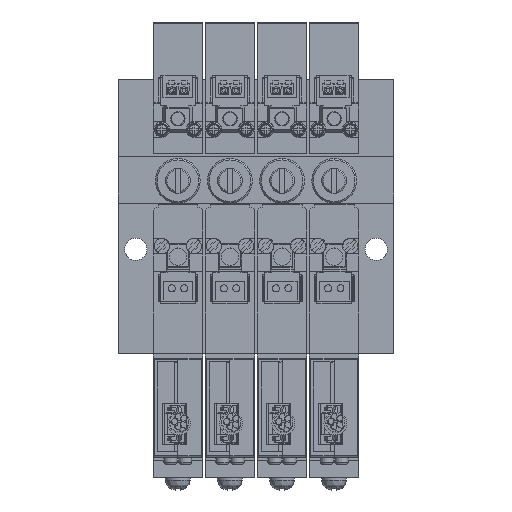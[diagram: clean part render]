
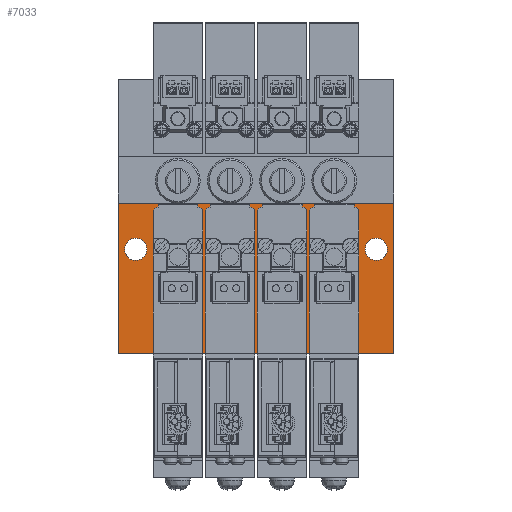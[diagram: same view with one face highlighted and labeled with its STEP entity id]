
A CAD part, top view. The second image highlights one B-rep face of the part: STEP entity #7033.
In plain terms, the highlighted planar face has unit normal (0, 0, 1).
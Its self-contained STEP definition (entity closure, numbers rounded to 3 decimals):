
#7033=ADVANCED_FACE('',(#12172,#12173,#12174),#12175,.F.);
#12172=FACE_BOUND('',#22672,.T.);
#12173=FACE_BOUND('',#22673,.T.);
#12174=FACE_OUTER_BOUND('',#22674,.T.);
#12175=PLANE('',#22675);
#22672=EDGE_LOOP('',(#34613));
#22673=EDGE_LOOP('',(#34614));
#22674=EDGE_LOOP('',(#34615,#34616,#34617,#34618));
#22675=AXIS2_PLACEMENT_3D('',#34619,#34620,#34621);
#34613=ORIENTED_EDGE('',*,*,#75161,.F.);
#34614=ORIENTED_EDGE('',*,*,#75162,.F.);
#34615=ORIENTED_EDGE('',*,*,#75163,.F.);
#34616=ORIENTED_EDGE('',*,*,#75164,.F.);
#34617=ORIENTED_EDGE('',*,*,#75165,.T.);
#34618=ORIENTED_EDGE('',*,*,#75159,.T.);
#34619=CARTESIAN_POINT('',(-55.5,30.3,14.8));
#34620=DIRECTION('',(0.0,0.0,-1.0));
#34621=DIRECTION('',(1.0,0.0,0.0));
#75159=EDGE_CURVE('',#88234,#88232,#88235,.T.);
#75161=EDGE_CURVE('',#88237,#88237,#88238,.T.);
#75162=EDGE_CURVE('',#88239,#88239,#88240,.T.);
#75163=EDGE_CURVE('',#88241,#88232,#88242,.T.);
#75164=EDGE_CURVE('',#88243,#88241,#88244,.T.);
#75165=EDGE_CURVE('',#88243,#88234,#88245,.T.);
#88232=VERTEX_POINT('',#110164);
#88234=VERTEX_POINT('',#110167);
#88235=LINE('',#110168,#110169);
#88237=VERTEX_POINT('',#110172);
#88238=CIRCLE('',#110173,2.25);
#88239=VERTEX_POINT('',#110174);
#88240=CIRCLE('',#110175,2.25);
#88241=VERTEX_POINT('',#110176);
#88242=LINE('',#110177,#110178);
#88243=VERTEX_POINT('',#110179);
#88244=LINE('',#110180,#110181);
#88245=LINE('',#110182,#110183);
#110164=CARTESIAN_POINT('',(0.0,0.,14.8));
#110167=CARTESIAN_POINT('',(-55.5,0.,14.8));
#110168=CARTESIAN_POINT('',(-55.5,0.,14.8));
#110169=VECTOR('',#144972,1.0);
#110172=CARTESIAN_POINT('',(-49.75,21.0,14.8));
#110173=AXIS2_PLACEMENT_3D('',#144974,#144975,#144976);
#110174=CARTESIAN_POINT('',(-1.25,21.0,14.8));
#110175=AXIS2_PLACEMENT_3D('',#144977,#144978,#144979);
#110176=CARTESIAN_POINT('',(0.0,30.3,14.8));
#110177=CARTESIAN_POINT('',(0.0,30.3,14.8));
#110178=VECTOR('',#144980,1.0);
#110179=CARTESIAN_POINT('',(-55.5,30.3,14.8));
#110180=CARTESIAN_POINT('',(-55.5,30.3,14.8));
#110181=VECTOR('',#144981,1.0);
#110182=CARTESIAN_POINT('',(-55.5,30.3,14.8));
#110183=VECTOR('',#144982,1.0);
#144972=DIRECTION('',(1.0,0.0,0.0));
#144974=CARTESIAN_POINT('',(-52.0,21.0,14.8));
#144975=DIRECTION('',(0.0,0.0,1.0));
#144976=DIRECTION('',(1.0,0.0,0.0));
#144977=CARTESIAN_POINT('',(-3.5,21.0,14.8));
#144978=DIRECTION('',(0.0,0.0,1.0));
#144979=DIRECTION('',(1.0,0.0,0.0));
#144980=DIRECTION('',(0.0,-1.0,0.0));
#144981=DIRECTION('',(1.0,0.0,0.0));
#144982=DIRECTION('',(0.0,-1.0,0.0));
